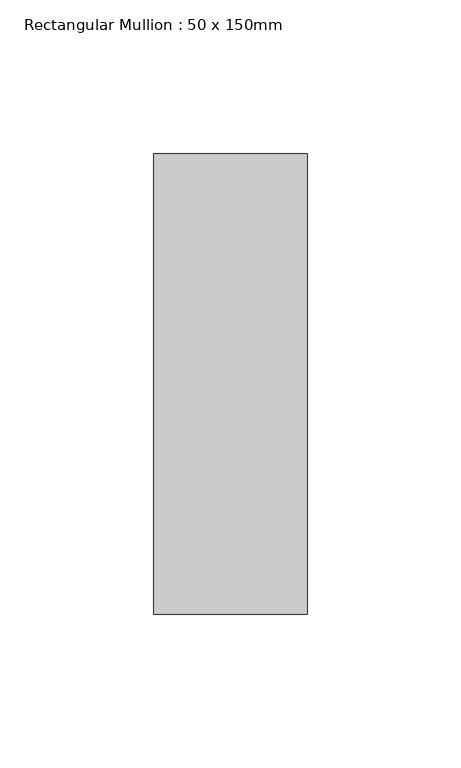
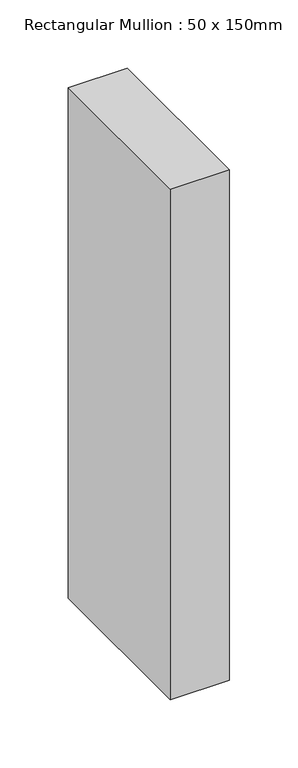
"""IFC4 building model written with IfcOpenShell, lengths in millimetres: member geometry, Rectangular Mullion : 50 x 150mm."""

import ifcopenshell
import ifcopenshell.guid

model = None  # the IFC model being written
_history = None  # IfcOwnerHistory: only IFC2X3 demands one
_inside = {}  # id of a spatial element -> (the spatial element, [elements in it])
_under = {}  # id of a project, library or spatial element -> (it, [spatial elements below it])
_declared = {}  # id of a project -> (the project, [libraries it declares])
_typed = {}  # id of a type object -> (the type object, [elements of that type])
_made_of = {}  # id of a material, layer set ... -> (it, [elements and type objects made of it])


def new_model(schema):
    """Start an empty IFC model of exactly this schema.

    Asked for "IFC4X3", IfcOpenShell would pick the latest addendum, in which some entities
    have other attributes; the version numbers below select the first issue.
    IFC2X3 requires an IfcOwnerHistory on every rooted entity: one is made here for all.
    """
    global model, _history
    if schema == "IFC4X3":
        model = ifcopenshell.file(schema_version=(4, 3, 0, 0))
    else:
        model = ifcopenshell.file(schema=schema)
    _inside.clear()
    _under.clear()
    _declared.clear()
    _typed.clear()
    _made_of.clear()
    _history = None
    if model.schema == "IFC2X3":
        org = make("IfcOrganization", Name="unknown")
        user = make(
            "IfcPersonAndOrganization",
            ThePerson=make("IfcPerson", FamilyName="unknown"),
            TheOrganization=org,
        )
        app = make(
            "IfcApplication",
            ApplicationDeveloper=org,
            Version="unknown",
            ApplicationFullName="unknown",
            ApplicationIdentifier="unknown",
        )
        _history = make(
            "IfcOwnerHistory",
            OwningUser=user,
            OwningApplication=app,
            ChangeAction="ADDED",
            CreationDate=0,
        )
    return model


def make(cls, **values):
    """One entity of the class cls with the attributes given. An attribute that is None is left unset."""
    return model.create_entity(
        cls, **{name: value for name, value in values.items() if value is not None}
    )


def rooted(cls, **values):
    """An entity with a GlobalId (a new one), such as an element, a storey or a relation."""
    return make(cls, GlobalId=ifcopenshell.guid.new(), OwnerHistory=_history, **values)


def si_unit(unit_type, name, prefix=None):
    """IfcSIUnit, for example si_unit("LENGTHUNIT", "METRE", prefix="MILLI")."""
    return make("IfcSIUnit", UnitType=unit_type, Prefix=prefix, Name=name)


def assignment(units):
    """IfcUnitAssignment: the units of a project."""
    return None if units is None else make("IfcUnitAssignment", Units=units)


def point(xyz):
    """IfcCartesianPoint."""
    return None if xyz is None else make("IfcCartesianPoint", Coordinates=xyz)


def direction(xyz):
    """IfcDirection."""
    return None if xyz is None else make("IfcDirection", DirectionRatios=xyz)


def frame(location, z_axis=None, x_axis=None):
    """IfcAxis2Placement3D, a coordinate frame: its origin and axes. An axis left out is left unset."""
    return make(
        "IfcAxis2Placement3D",
        Location=point(location),
        Axis=direction(z_axis),
        RefDirection=direction(x_axis),
    )


def origin():
    """The frame at (0, 0, 0) with its axes left unset."""
    return frame((0.0, 0.0, 0.0))


def place(relative_to, where):
    """IfcLocalPlacement: puts the frame where relative to a parent placement (None: the world)."""
    return make(
        "IfcLocalPlacement", PlacementRelTo=relative_to, RelativePlacement=where
    )


def context(
    kind, dimensions, precision=None, world=None, true_north=None, identifier=None
):
    """IfcGeometricRepresentationContext, for example the 3D "Model" context."""
    return make(
        "IfcGeometricRepresentationContext",
        ContextIdentifier=identifier,
        ContextType=kind,
        CoordinateSpaceDimension=dimensions,
        Precision=precision,
        WorldCoordinateSystem=world,
        TrueNorth=true_north,
    )


def project(units=None, contexts=None):
    """IfcProject with its units and contexts."""
    return rooted(
        "IfcProject",
        Name="project",
        RepresentationContexts=contexts,
        UnitsInContext=assignment(units),
    )


def spatial(cls, under=None, at=None, **own):
    """A site, building, storey or space (cls), placed at a placement, below another one or the project."""
    s = rooted(cls, ObjectPlacement=at, **own)
    if under is not None:
        _under.setdefault(under.id(), (under, []))[1].append(s)
    return s


def polyline(points):
    """IfcPolyline through the points."""
    return make("IfcPolyline", Points=[point(p) for p in points])


def outline(outer, holes=None, kind="AREA"):
    """IfcArbitraryClosedProfileDef: a profile drawn as a closed curve; with holes, ...WithVoids."""
    if holes is None:
        return make("IfcArbitraryClosedProfileDef", ProfileType=kind, OuterCurve=outer)
    return make(
        "IfcArbitraryProfileDefWithVoids",
        ProfileType=kind,
        OuterCurve=outer,
        InnerCurves=holes,
    )


def extrude(swept, where, along, depth):
    """IfcExtrudedAreaSolid: the profile swept, set in the frame where, extruded along a direction by depth."""
    return make(
        "IfcExtrudedAreaSolid",
        SweptArea=swept,
        Position=where,
        ExtrudedDirection=direction(along),
        Depth=depth,
    )


def shape(context_of_items, identifier, shape_type, items):
    """IfcShapeRepresentation: the items that make up one representation, for example the "Body"."""
    return make(
        "IfcShapeRepresentation",
        ContextOfItems=context_of_items,
        RepresentationIdentifier=identifier,
        RepresentationType=shape_type,
        Items=items,
    )


def source(mapping_origin, context_of_items, identifier, shape_type, items):
    """IfcRepresentationMap: a shape defined once, which mapped items show again and again."""
    return make(
        "IfcRepresentationMap",
        MappingOrigin=mapping_origin,
        MappedRepresentation=shape(context_of_items, identifier, shape_type, items),
    )


def transform(
    local_origin,
    x_axis=None,
    y_axis=None,
    z_axis=None,
    scale=None,
    scale2=None,
    scale3=None,
    uniform=True,
):
    """IfcCartesianTransformationOperator3D, or its non-uniform kind. x_axis, y_axis, z_axis: its Axis1, 2, 3."""
    if uniform:
        return make(
            "IfcCartesianTransformationOperator3D",
            Axis1=direction(x_axis),
            Axis2=direction(y_axis),
            LocalOrigin=point(local_origin),
            Scale=scale,
            Axis3=direction(z_axis),
        )
    return make(
        "IfcCartesianTransformationOperator3DnonUniform",
        Axis1=direction(x_axis),
        Axis2=direction(y_axis),
        LocalOrigin=point(local_origin),
        Scale=scale,
        Axis3=direction(z_axis),
        Scale2=scale2,
        Scale3=scale3,
    )


def mapped(mapping_source, mapping_target):
    """IfcMappedItem: shows the shape of a source again, moved by a transform."""
    return make(
        "IfcMappedItem", MappingSource=mapping_source, MappingTarget=mapping_target
    )


def made_of(thing, what):
    """Note that an element or type object is made of a material, layer set ...; save() writes the relation."""
    if what is not None:
        _made_of.setdefault(what.id(), (what, []))[1].append(thing)
    return thing


def element(
    cls,
    number,
    at=None,
    inside=None,
    cuts=None,
    type_object=None,
    material=None,
    context=None,
    identifier="Body",
    shape_type=None,
    held_by="IfcProductDefinitionShape",
    body=None,
    shapes=None,
    **own,
):
    """One element of the class cls, such as IfcWall. Its Tag is "e" and its number.

    at: its placement. inside: the storey or other place that contains it. cuts: it is an
    opening in that element (IfcRelVoidsElement). A single representation is given by context,
    identifier, shape_type and body (its items); several are given by shapes. held_by: the class
    of the entity that holds the representations. save() writes the other relations.
    """
    e = rooted(cls, Tag="e%d" % number, ObjectPlacement=at, **own)
    if body is not None:
        shapes = [shape(context, identifier, shape_type, body)]
    if shapes is not None:
        e.Representation = make(held_by, Representations=shapes)
    if inside is not None:
        _inside.setdefault(inside.id(), (inside, []))[1].append(e)
    if cuts is not None:
        rooted(
            "IfcRelVoidsElement", RelatingBuildingElement=cuts, RelatedOpeningElement=e
        )
    if type_object is not None:
        _typed.setdefault(type_object.id(), (type_object, []))[1].append(e)
    return made_of(e, material)


def aggregate(whole, parts):
    """IfcRelAggregates: a whole, such as a stair, and the parts it consists of."""
    return rooted("IfcRelAggregates", RelatingObject=whole, RelatedObjects=parts)


def save(model, path):
    """Write the relations noted so far, then the file.

    IfcRelAggregates (storeys below a building ...), IfcRelContainedInSpatialStructure (elements
    in a storey), IfcRelDefinesByType, IfcRelAssociatesMaterial and IfcRelDeclares: one each for
    every whole, place, type object, material and project.
    """
    for whole, parts in _under.values():
        aggregate(whole, parts)
    for where, things in _inside.values():
        rooted(
            "IfcRelContainedInSpatialStructure",
            RelatedElements=things,
            RelatingStructure=where,
        )
    for kind, things in _typed.values():
        rooted("IfcRelDefinesByType", RelatedObjects=things, RelatingType=kind)
    for what, things in _made_of.values():
        rooted("IfcRelAssociatesMaterial", RelatedObjects=things, RelatingMaterial=what)
    for by, libraries in _declared.values():
        rooted("IfcRelDeclares", RelatingContext=by, RelatedDefinitions=libraries)
    model.write(path)


def rectangular_mullion_50_x_150mm_686aa266(model_context):
    return source(origin(), model_context, "Body", "SweptSolid", [
        extrude(outline(polyline([(0.0, 75.0), (0.0, -75.0), (-50.0, -75.0), (-50.0, 75.0), (0.0, 75.0)])), frame((0.0, 0.0, -457.2), z_axis=(0.0, 0.0, 1.0), x_axis=(1.0, 0.0, 0.0)), (0.0, 0.0, 1.0), 457.2),
    ])


if __name__ == "__main__":
    model = new_model("IFC4")
    model_context = context("Model", 3, world=origin())
    ifc_project = project(units=[si_unit("LENGTHUNIT", "METRE", prefix="MILLI")], contexts=[model_context])
    site = spatial("IfcSite", under=ifc_project)
    building = spatial("IfcBuilding", under=site)
    placement = place(None, origin())
    rectangular_mullion_50_x_150mm_shape = rectangular_mullion_50_x_150mm_686aa266(model_context)
    element("IfcMember", 1, ObjectType="Rectangular Mullion : 50 x 150mm", at=placement, inside=building, context=model_context, shape_type="MappedRepresentation", body=[
        mapped(rectangular_mullion_50_x_150mm_shape, transform((0.0, 0.0, 0.0), x_axis=(1.0, 0.0, 0.0), y_axis=(0.0, 1.0, 0.0), z_axis=(0.0, 0.0, 1.0))),
    ])
    save(model, "model.ifc")
